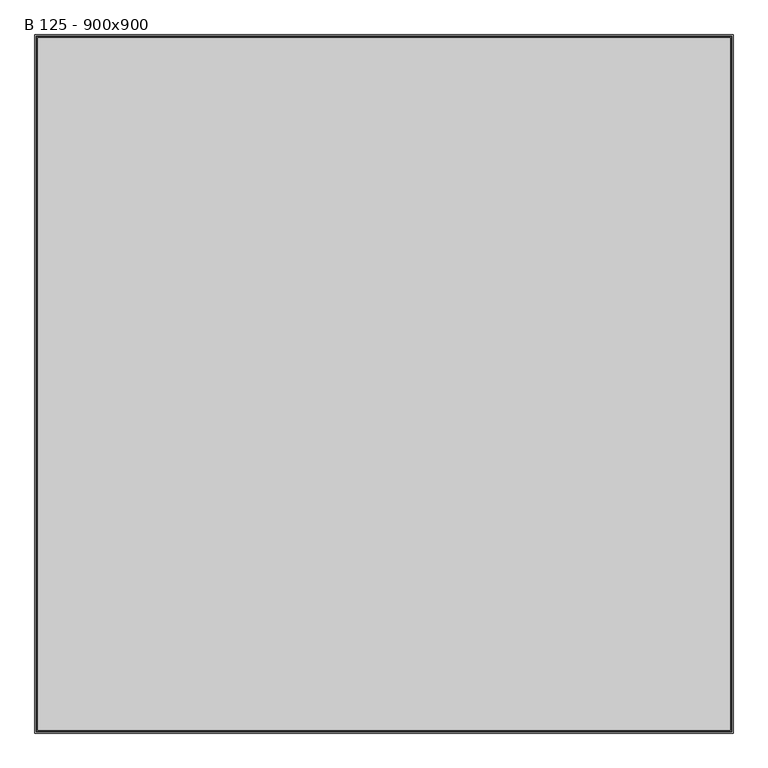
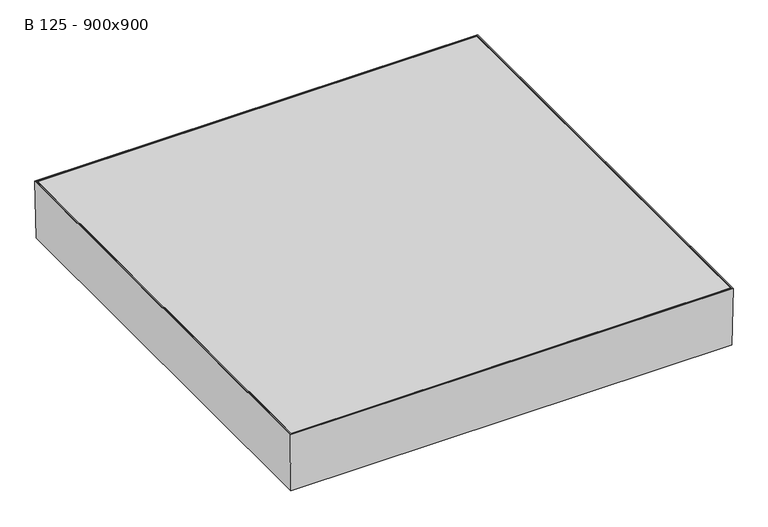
"""IFC4 building model written with IfcOpenShell, lengths in millimetres: proxy geometry, ME_ST_WPB_Access Cover UNIFACE DEEP 65 GS_ACO : B 125 - 900x900."""

import ifcopenshell
import ifcopenshell.guid

model = None  # the IFC model being written
_history = None  # IfcOwnerHistory: only IFC2X3 demands one
_inside = {}  # id of a spatial element -> (the spatial element, [elements in it])
_under = {}  # id of a project, library or spatial element -> (it, [spatial elements below it])
_declared = {}  # id of a project -> (the project, [libraries it declares])
_typed = {}  # id of a type object -> (the type object, [elements of that type])
_made_of = {}  # id of a material, layer set ... -> (it, [elements and type objects made of it])


def new_model(schema):
    """Start an empty IFC model of exactly this schema.

    Asked for "IFC4X3", IfcOpenShell would pick the latest addendum, in which some entities
    have other attributes; the version numbers below select the first issue.
    IFC2X3 requires an IfcOwnerHistory on every rooted entity: one is made here for all.
    """
    global model, _history
    if schema == "IFC4X3":
        model = ifcopenshell.file(schema_version=(4, 3, 0, 0))
    else:
        model = ifcopenshell.file(schema=schema)
    _inside.clear()
    _under.clear()
    _declared.clear()
    _typed.clear()
    _made_of.clear()
    _history = None
    if model.schema == "IFC2X3":
        org = make("IfcOrganization", Name="unknown")
        user = make(
            "IfcPersonAndOrganization",
            ThePerson=make("IfcPerson", FamilyName="unknown"),
            TheOrganization=org,
        )
        app = make(
            "IfcApplication",
            ApplicationDeveloper=org,
            Version="unknown",
            ApplicationFullName="unknown",
            ApplicationIdentifier="unknown",
        )
        _history = make(
            "IfcOwnerHistory",
            OwningUser=user,
            OwningApplication=app,
            ChangeAction="ADDED",
            CreationDate=0,
        )
    return model


def make(cls, **values):
    """One entity of the class cls with the attributes given. An attribute that is None is left unset."""
    return model.create_entity(
        cls, **{name: value for name, value in values.items() if value is not None}
    )


def rooted(cls, **values):
    """An entity with a GlobalId (a new one), such as an element, a storey or a relation."""
    return make(cls, GlobalId=ifcopenshell.guid.new(), OwnerHistory=_history, **values)


def si_unit(unit_type, name, prefix=None):
    """IfcSIUnit, for example si_unit("LENGTHUNIT", "METRE", prefix="MILLI")."""
    return make("IfcSIUnit", UnitType=unit_type, Prefix=prefix, Name=name)


def assignment(units):
    """IfcUnitAssignment: the units of a project."""
    return None if units is None else make("IfcUnitAssignment", Units=units)


def point(xyz):
    """IfcCartesianPoint."""
    return None if xyz is None else make("IfcCartesianPoint", Coordinates=xyz)


def direction(xyz):
    """IfcDirection."""
    return None if xyz is None else make("IfcDirection", DirectionRatios=xyz)


def frame(location, z_axis=None, x_axis=None):
    """IfcAxis2Placement3D, a coordinate frame: its origin and axes. An axis left out is left unset."""
    return make(
        "IfcAxis2Placement3D",
        Location=point(location),
        Axis=direction(z_axis),
        RefDirection=direction(x_axis),
    )


def origin():
    """The frame at (0, 0, 0) with its axes left unset."""
    return frame((0.0, 0.0, 0.0))


def place(relative_to, where):
    """IfcLocalPlacement: puts the frame where relative to a parent placement (None: the world)."""
    return make(
        "IfcLocalPlacement", PlacementRelTo=relative_to, RelativePlacement=where
    )


def context(
    kind, dimensions, precision=None, world=None, true_north=None, identifier=None
):
    """IfcGeometricRepresentationContext, for example the 3D "Model" context."""
    return make(
        "IfcGeometricRepresentationContext",
        ContextIdentifier=identifier,
        ContextType=kind,
        CoordinateSpaceDimension=dimensions,
        Precision=precision,
        WorldCoordinateSystem=world,
        TrueNorth=true_north,
    )


def project(units=None, contexts=None):
    """IfcProject with its units and contexts."""
    return rooted(
        "IfcProject",
        Name="project",
        RepresentationContexts=contexts,
        UnitsInContext=assignment(units),
    )


def spatial(cls, under=None, at=None, **own):
    """A site, building, storey or space (cls), placed at a placement, below another one or the project."""
    s = rooted(cls, ObjectPlacement=at, **own)
    if under is not None:
        _under.setdefault(under.id(), (under, []))[1].append(s)
    return s


def polyline(points):
    """IfcPolyline through the points."""
    return make("IfcPolyline", Points=[point(p) for p in points])


def outline(outer, holes=None, kind="AREA"):
    """IfcArbitraryClosedProfileDef: a profile drawn as a closed curve; with holes, ...WithVoids."""
    if holes is None:
        return make("IfcArbitraryClosedProfileDef", ProfileType=kind, OuterCurve=outer)
    return make(
        "IfcArbitraryProfileDefWithVoids",
        ProfileType=kind,
        OuterCurve=outer,
        InnerCurves=holes,
    )


def extrude(swept, where, along, depth):
    """IfcExtrudedAreaSolid: the profile swept, set in the frame where, extruded along a direction by depth."""
    return make(
        "IfcExtrudedAreaSolid",
        SweptArea=swept,
        Position=where,
        ExtrudedDirection=direction(along),
        Depth=depth,
    )


def faces_of(points, faces, orient=None, outer=None):
    """IfcFace entities. A face is a list of loops; a loop is a list of indices into points, from 0.

    orient and outer hold one flag for each loop. By default every Orientation is true, the
    first loop of a face is its IfcFaceOuterBound and the others are IfcFaceBound.
    """
    made = []
    for i, loops in enumerate(faces):
        bounds = []
        for j, loop in enumerate(loops):
            is_outer = j == 0 if outer is None else outer[i][j]
            bounds.append(
                make(
                    "IfcFaceOuterBound" if is_outer else "IfcFaceBound",
                    Bound=make("IfcPolyLoop", Polygon=[points[k] for k in loop]),
                    Orientation=True if orient is None else orient[i][j],
                )
            )
        made.append(make("IfcFace", Bounds=bounds))
    return made


def faceted_brep(points, faces, orient=None, outer=None, voids=None):
    """IfcFacetedBrep: a solid bounded by flat faces; with voids (closed shells), ...WithVoids."""
    shared = [point(p) for p in points]
    hull = make("IfcClosedShell", CfsFaces=faces_of(shared, faces, orient, outer))
    if voids is None:
        return make("IfcFacetedBrep", Outer=hull)
    return make(
        "IfcFacetedBrepWithVoids",
        Outer=hull,
        Voids=[
            make(cls, CfsFaces=faces_of(shared, fs, o, b)) for cls, fs, o, b in voids
        ],
    )


def shape(context_of_items, identifier, shape_type, items):
    """IfcShapeRepresentation: the items that make up one representation, for example the "Body"."""
    return make(
        "IfcShapeRepresentation",
        ContextOfItems=context_of_items,
        RepresentationIdentifier=identifier,
        RepresentationType=shape_type,
        Items=items,
    )


def source(mapping_origin, context_of_items, identifier, shape_type, items):
    """IfcRepresentationMap: a shape defined once, which mapped items show again and again."""
    return make(
        "IfcRepresentationMap",
        MappingOrigin=mapping_origin,
        MappedRepresentation=shape(context_of_items, identifier, shape_type, items),
    )


def transform(
    local_origin,
    x_axis=None,
    y_axis=None,
    z_axis=None,
    scale=None,
    scale2=None,
    scale3=None,
    uniform=True,
):
    """IfcCartesianTransformationOperator3D, or its non-uniform kind. x_axis, y_axis, z_axis: its Axis1, 2, 3."""
    if uniform:
        return make(
            "IfcCartesianTransformationOperator3D",
            Axis1=direction(x_axis),
            Axis2=direction(y_axis),
            LocalOrigin=point(local_origin),
            Scale=scale,
            Axis3=direction(z_axis),
        )
    return make(
        "IfcCartesianTransformationOperator3DnonUniform",
        Axis1=direction(x_axis),
        Axis2=direction(y_axis),
        LocalOrigin=point(local_origin),
        Scale=scale,
        Axis3=direction(z_axis),
        Scale2=scale2,
        Scale3=scale3,
    )


def mapped(mapping_source, mapping_target):
    """IfcMappedItem: shows the shape of a source again, moved by a transform."""
    return make(
        "IfcMappedItem", MappingSource=mapping_source, MappingTarget=mapping_target
    )


def made_of(thing, what):
    """Note that an element or type object is made of a material, layer set ...; save() writes the relation."""
    if what is not None:
        _made_of.setdefault(what.id(), (what, []))[1].append(thing)
    return thing


def element(
    cls,
    number,
    at=None,
    inside=None,
    cuts=None,
    type_object=None,
    material=None,
    context=None,
    identifier="Body",
    shape_type=None,
    held_by="IfcProductDefinitionShape",
    body=None,
    shapes=None,
    **own,
):
    """One element of the class cls, such as IfcWall. Its Tag is "e" and its number.

    at: its placement. inside: the storey or other place that contains it. cuts: it is an
    opening in that element (IfcRelVoidsElement). A single representation is given by context,
    identifier, shape_type and body (its items); several are given by shapes. held_by: the class
    of the entity that holds the representations. save() writes the other relations.
    """
    e = rooted(cls, Tag="e%d" % number, ObjectPlacement=at, **own)
    if body is not None:
        shapes = [shape(context, identifier, shape_type, body)]
    if shapes is not None:
        e.Representation = make(held_by, Representations=shapes)
    if inside is not None:
        _inside.setdefault(inside.id(), (inside, []))[1].append(e)
    if cuts is not None:
        rooted(
            "IfcRelVoidsElement", RelatingBuildingElement=cuts, RelatedOpeningElement=e
        )
    if type_object is not None:
        _typed.setdefault(type_object.id(), (type_object, []))[1].append(e)
    return made_of(e, material)


def aggregate(whole, parts):
    """IfcRelAggregates: a whole, such as a stair, and the parts it consists of."""
    return rooted("IfcRelAggregates", RelatingObject=whole, RelatedObjects=parts)


def save(model, path):
    """Write the relations noted so far, then the file.

    IfcRelAggregates (storeys below a building ...), IfcRelContainedInSpatialStructure (elements
    in a storey), IfcRelDefinesByType, IfcRelAssociatesMaterial and IfcRelDeclares: one each for
    every whole, place, type object, material and project.
    """
    for whole, parts in _under.values():
        aggregate(whole, parts)
    for where, things in _inside.values():
        rooted(
            "IfcRelContainedInSpatialStructure",
            RelatedElements=things,
            RelatingStructure=where,
        )
    for kind, things in _typed.values():
        rooted("IfcRelDefinesByType", RelatedObjects=things, RelatingType=kind)
    for what, things in _made_of.values():
        rooted("IfcRelAssociatesMaterial", RelatedObjects=things, RelatingMaterial=what)
    for by, libraries in _declared.values():
        rooted("IfcRelDeclares", RelatingContext=by, RelatedDefinitions=libraries)
    model.write(path)


def b_125_900x900_77b611ce(model_context):
    return source(origin(), model_context, "Body", "SolidModel", [
        extrude(outline(polyline([(501.0, 501.0), (501.0, -501.0), (-501.0, -501.0), (-501.0, 501.0), (501.0, 501.0)])), frame((0.0, 0.0, -5.0), z_axis=(0.0, 0.0, 1.0), x_axis=(1.0, 0.0, 0.0)), (0.0, 0.0, 1.0), 5.0),
        faceted_brep([(498.2666483, 498.2666483, -122.9987834), (-498.2666483, 498.2666483, -122.9987834), (-498.2666483, -498.2666483, -122.9987834), (498.2666483, -498.2666483, -122.9987834), (500.2226777, 500.2226777, -125.0), (500.2226777, -500.2226777, -125.0), (-500.2226777, -500.2226777, -125.0), (-500.2226777, 500.2226777, -125.0), (503.0, 503.0, 0.0), (503.0, -503.0, 0.0), (-503.0, -503.0, 0.0), (-503.0, 503.0, 0.0), (500.9995064, -500.9995064, 0.0), (500.9995064, 500.9995064, 0.0), (-500.9995064, -500.9995064, 0.0), (-500.9995064, 500.9995064, 0.0)], [[[0, 1, 2, 3]], [[4, 5, 6, 7]], [[4, 8, 9, 5]], [[5, 9, 10, 6]], [[6, 10, 11, 7]], [[8, 4, 7, 11]], [[0, 3, 12, 13]], [[3, 2, 14, 12]], [[2, 1, 15, 14]], [[1, 0, 13, 15]], [[9, 8, 11, 10], [13, 12, 14, 15]]]),
        faceted_brep([(502.9309621, 502.9309621, -137.0), (505.0, 505.0, 0.0), (505.0, -505.0, 0.0), (502.9309621, -502.9309621, -137.0), (-505.0, -505.0, 0.0), (-502.9309621, -502.9309621, -137.0), (-505.0, 505.0, 0.0), (-502.9309621, 502.9309621, -137.0), (450.0, 450.0, -137.0), (-450.0, 450.0, -137.0), (-450.0, -450.0, -137.0), (450.0, -450.0, -137.0), (500.960939, 500.960939, -135.0), (-500.960939, 500.960939, -135.0), (-500.960939, -500.960939, -135.0), (500.960939, -500.960939, -135.0), (452.0, -452.0, -135.0), (-452.0, -452.0, -135.0), (-452.0, 452.0, -135.0), (452.0, 452.0, -135.0), (502.9997719, -502.9997719, 0.0), (-502.9997719, -502.9997719, 0.0), (-502.9997719, 502.9997719, 0.0), (502.9997719, 502.9997719, 0.0), (450.0, 450.0, -125.0), (450.0, -450.0, -125.0), (452.0, 452.0, -125.0), (452.0, -452.0, -125.0), (-450.0, -450.0, -125.0), (-452.0, -452.0, -125.0), (-450.0, 450.0, -125.0), (-452.0, 452.0, -125.0)], [[[0, 1, 2, 3]], [[3, 2, 4, 5]], [[5, 4, 6, 7]], [[3, 5, 7, 0], [8, 9, 10, 11]], [[12, 13, 14, 15], [16, 17, 18, 19]], [[1, 6, 4, 2], [20, 21, 22, 23]], [[7, 6, 1, 0]], [[24, 8, 11, 25]], [[19, 26, 27, 16]], [[25, 11, 10, 28]], [[16, 27, 29, 17]], [[28, 10, 9, 30]], [[17, 29, 31, 18]], [[30, 9, 8, 24]], [[26, 31, 29, 27], [25, 28, 30, 24]], [[18, 31, 26, 19]], [[23, 12, 15, 20]], [[20, 15, 14, 21]], [[21, 14, 13, 22]], [[22, 13, 12, 23]]]),
    ])


if __name__ == "__main__":
    model = new_model("IFC4")
    model_context = context("Model", 3, world=origin())
    ifc_project = project(units=[si_unit("LENGTHUNIT", "METRE", prefix="MILLI")], contexts=[model_context])
    site = spatial("IfcSite", under=ifc_project)
    building = spatial("IfcBuilding", under=site)
    placement = place(None, origin())
    b_125_900x900_shape = b_125_900x900_77b611ce(model_context)
    element("IfcBuildingElementProxy", 1, Name="ME_ST_WPB_Access Cover UNIFACE DEEP 65 GS_ACO : B 125 - 900x900", ObjectType="ME_ST_WPB_Access Cover UNIFACE DEEP 65 GS_ACO : B 125 - 900x900", at=placement, inside=building, context=model_context, shape_type="MappedRepresentation", body=[
        mapped(b_125_900x900_shape, transform((0.0, 0.0, 0.0), x_axis=(1.0, 0.0, 0.0), y_axis=(0.0, 1.0, 0.0), z_axis=(0.0, 0.0, 1.0))),
    ])
    save(model, "model.ifc")
